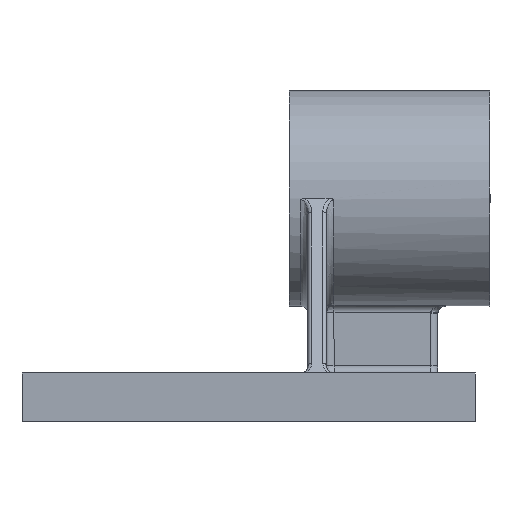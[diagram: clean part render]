
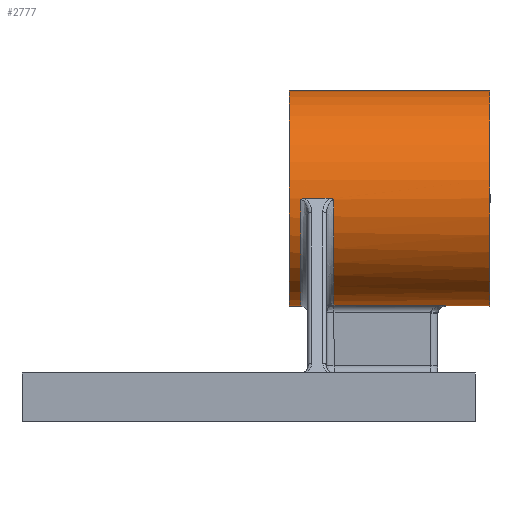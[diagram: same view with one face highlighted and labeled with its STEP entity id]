
A CAD part, left-side view. The second image highlights one B-rep face of the part: STEP entity #2777.
In plain terms, the highlighted cylindrical face has radius 29 mm (diameter 58 mm), a full revolution.
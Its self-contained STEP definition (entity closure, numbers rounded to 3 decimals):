
#173=CARTESIAN_POINT('',(-29.,-15.042,60.));
#174=VERTEX_POINT('',#173);
#175=CARTESIAN_POINT('',(-28.998,-14.,59.676));
#176=VERTEX_POINT('',#175);
#177=CARTESIAN_POINT('',(-28.998,-14.,59.676));
#178=CARTESIAN_POINT('',(-28.998,-14.001,59.677));
#179=CARTESIAN_POINT('',(-28.998,-14.003,59.678));
#180=CARTESIAN_POINT('',(-28.999,-14.109,59.754));
#181=CARTESIAN_POINT('',(-28.999,-14.22,59.816));
#182=CARTESIAN_POINT('',(-29.,-14.465,59.917));
#183=CARTESIAN_POINT('',(-29.,-14.596,59.953));
#184=CARTESIAN_POINT('',(-29.,-14.833,59.992));
#185=CARTESIAN_POINT('',(-29.,-14.938,60.));
#186=CARTESIAN_POINT('',(-29.,-15.042,60.));
#187=B_SPLINE_CURVE_WITH_KNOTS('',3,(#177,#178,#179,#180,#181,#182,#183,#184,#185,#186),.UNSPECIFIED.,.F.,.U.,(4,2,2,2,4),(0.,0.0,0.039,0.08,0.111),.UNSPECIFIED.);
#188=EDGE_CURVE('',#174,#176,#187,.F.);
#482=CARTESIAN_POINT('',(28.998,-14.,59.676));
#483=VERTEX_POINT('',#482);
#484=CARTESIAN_POINT('',(0.,-14.,60.));
#485=DIRECTION('',(0.0,-1.0,0.0));
#486=DIRECTION('',(0.0,0.0,-1.0));
#487=AXIS2_PLACEMENT_3D('',#484,#485,#486);
#488=CIRCLE('',#487,29.);
#489=EDGE_CURVE('',#176,#483,#488,.T.);
#631=CARTESIAN_POINT('',(29.,-21.958,60.));
#632=VERTEX_POINT('',#631);
#633=CARTESIAN_POINT('',(28.998,-23.,59.676));
#634=VERTEX_POINT('',#633);
#635=CARTESIAN_POINT('',(28.998,-23.,59.676));
#636=CARTESIAN_POINT('',(28.998,-22.999,59.677));
#637=CARTESIAN_POINT('',(28.998,-22.997,59.678));
#638=CARTESIAN_POINT('',(28.999,-22.891,59.754));
#639=CARTESIAN_POINT('',(28.999,-22.78,59.816));
#640=CARTESIAN_POINT('',(29.,-22.535,59.917));
#641=CARTESIAN_POINT('',(29.,-22.404,59.953));
#642=CARTESIAN_POINT('',(29.,-22.167,59.992));
#643=CARTESIAN_POINT('',(29.,-22.062,60.));
#644=CARTESIAN_POINT('',(29.,-21.958,60.));
#645=B_SPLINE_CURVE_WITH_KNOTS('',3,(#635,#636,#637,#638,#639,#640,#641,#642,#643,#644),.UNSPECIFIED.,.F.,.U.,(4,2,2,2,4),(0.,0.0,0.039,0.08,0.111),.UNSPECIFIED.);
#646=EDGE_CURVE('',#632,#634,#645,.F.);
#930=CARTESIAN_POINT('',(29.,-15.042,60.));
#931=VERTEX_POINT('',#930);
#932=CARTESIAN_POINT('',(29.,-15.042,60.));
#933=CARTESIAN_POINT('',(29.,-15.,60.));
#934=CARTESIAN_POINT('',(29.,-14.959,59.999));
#935=CARTESIAN_POINT('',(29.,-14.746,59.985));
#936=CARTESIAN_POINT('',(29.,-14.576,59.952));
#937=CARTESIAN_POINT('',(29.,-14.267,59.841));
#938=CARTESIAN_POINT('',(28.999,-14.131,59.77));
#939=CARTESIAN_POINT('',(28.998,-14.003,59.678));
#940=CARTESIAN_POINT('',(28.998,-14.001,59.677));
#941=CARTESIAN_POINT('',(28.998,-14.,59.676));
#942=B_SPLINE_CURVE_WITH_KNOTS('',3,(#932,#933,#934,#935,#936,#937,#938,#939,#940,#941),.UNSPECIFIED.,.F.,.U.,(4,2,2,2,4),(0.0,0.012,0.064,0.111,0.111),.UNSPECIFIED.);
#943=EDGE_CURVE('',#483,#931,#942,.F.);
#1091=CARTESIAN_POINT('',(29.,-21.958,60.));
#1092=DIRECTION('',(0.0,1.0,0.0));
#1093=VECTOR('',#1092,6.916);
#1094=LINE('',#1091,#1093);
#1095=EDGE_CURVE('',#632,#931,#1094,.T.);
#1363=CARTESIAN_POINT('',(-28.998,-23.,59.676));
#1364=VERTEX_POINT('',#1363);
#1365=CARTESIAN_POINT('',(-29.,-21.958,60.));
#1366=VERTEX_POINT('',#1365);
#1367=CARTESIAN_POINT('',(-29.,-21.958,60.));
#1368=CARTESIAN_POINT('',(-29.,-22.,60.));
#1369=CARTESIAN_POINT('',(-29.,-22.041,59.999));
#1370=CARTESIAN_POINT('',(-29.,-22.254,59.985));
#1371=CARTESIAN_POINT('',(-29.,-22.424,59.952));
#1372=CARTESIAN_POINT('',(-29.,-22.733,59.841));
#1373=CARTESIAN_POINT('',(-28.999,-22.869,59.77));
#1374=CARTESIAN_POINT('',(-28.998,-22.997,59.678));
#1375=CARTESIAN_POINT('',(-28.998,-22.999,59.677));
#1376=CARTESIAN_POINT('',(-28.998,-23.,59.676));
#1377=B_SPLINE_CURVE_WITH_KNOTS('',3,(#1367,#1368,#1369,#1370,#1371,#1372,#1373,#1374,#1375,#1376),.UNSPECIFIED.,.F.,.U.,(4,2,2,2,4),(0.0,0.012,0.064,0.111,0.111),.UNSPECIFIED.);
#1378=EDGE_CURVE('',#1364,#1366,#1377,.F.);
#1453=CARTESIAN_POINT('',(-4.21,-23.,31.307));
#1454=VERTEX_POINT('',#1453);
#1462=CARTESIAN_POINT('',(0.,-23.,60.));
#1463=DIRECTION('',(0.,1.0,0.));
#1464=DIRECTION('',(-0.737,0.,-0.676));
#1465=AXIS2_PLACEMENT_3D('',#1462,#1463,#1464);
#1466=CIRCLE('',#1465,29.);
#1467=EDGE_CURVE('',#1454,#1364,#1466,.T.);
#1655=CARTESIAN_POINT('',(4.21,-53.0,31.307));
#1656=VERTEX_POINT('',#1655);
#1878=CARTESIAN_POINT('',(-4.21,-53.0,31.307));
#1879=VERTEX_POINT('',#1878);
#1880=CARTESIAN_POINT('',(0.,-53.0,60.));
#1881=DIRECTION('',(0.0,1.0,0.0));
#1882=DIRECTION('',(0.0,0.0,-1.0));
#1883=AXIS2_PLACEMENT_3D('',#1880,#1881,#1882);
#1884=CIRCLE('',#1883,29.);
#1885=EDGE_CURVE('',#1656,#1879,#1884,.T.);
#1932=CARTESIAN_POINT('',(4.21,-23.,31.307));
#1933=VERTEX_POINT('',#1932);
#1941=CARTESIAN_POINT('',(4.21,-23.,31.307));
#1942=DIRECTION('',(0.0,-1.0,0.0));
#1943=VECTOR('',#1942,30.);
#1944=LINE('',#1941,#1943);
#1945=EDGE_CURVE('',#1933,#1656,#1944,.T.);
#2613=CARTESIAN_POINT('',(-4.21,-53.0,31.307));
#2614=DIRECTION('',(0.0,1.0,0.0));
#2615=VECTOR('',#2614,30.);
#2616=LINE('',#2613,#2615);
#2617=EDGE_CURVE('',#1879,#1454,#2616,.T.);
#2676=CARTESIAN_POINT('',(0.,-23.,60.));
#2677=DIRECTION('',(0.,1.0,0.));
#2678=DIRECTION('',(0.737,0.,-0.676));
#2679=AXIS2_PLACEMENT_3D('',#2676,#2677,#2678);
#2680=CIRCLE('',#2679,29.);
#2681=EDGE_CURVE('',#634,#1933,#2680,.T.);
#2731=CARTESIAN_POINT('',(0.,-65.0,60.));
#2732=DIRECTION('',(0.,1.0,0.0));
#2733=DIRECTION('',(-1.0,0.0,0.0));
#2734=AXIS2_PLACEMENT_3D('',#2731,#2732,#2733);
#2735=CYLINDRICAL_SURFACE('',#2734,29.);
#2736=CARTESIAN_POINT('',(29.,-65.,60.));
#2737=VERTEX_POINT('',#2736);
#2738=CARTESIAN_POINT('',(0.,-65.0,60.));
#2739=DIRECTION('',(0.0,1.0,0.0));
#2740=DIRECTION('',(-1.0,0.0,0.0));
#2741=AXIS2_PLACEMENT_3D('',#2738,#2739,#2740);
#2742=CIRCLE('',#2741,29.);
#2743=EDGE_CURVE('',#2737,#2737,#2742,.T.);
#2744=ORIENTED_EDGE('',*,*,#2743,.T.);
#2745=EDGE_LOOP('',(#2744));
#2746=FACE_OUTER_BOUND('',#2745,.T.);
#2747=CARTESIAN_POINT('',(-29.,-15.042,60.0));
#2748=DIRECTION('',(0.0,-1.0,0.0));
#2749=VECTOR('',#2748,6.916);
#2750=LINE('',#2747,#2749);
#2751=EDGE_CURVE('',#174,#1366,#2750,.T.);
#2752=ORIENTED_EDGE('',*,*,#2751,.T.);
#2753=ORIENTED_EDGE('',*,*,#1378,.F.);
#2754=ORIENTED_EDGE('',*,*,#1467,.F.);
#2755=ORIENTED_EDGE('',*,*,#2617,.F.);
#2756=ORIENTED_EDGE('',*,*,#1885,.F.);
#2757=ORIENTED_EDGE('',*,*,#1945,.F.);
#2758=ORIENTED_EDGE('',*,*,#2681,.F.);
#2759=ORIENTED_EDGE('',*,*,#646,.F.);
#2760=ORIENTED_EDGE('',*,*,#1095,.T.);
#2761=ORIENTED_EDGE('',*,*,#943,.F.);
#2762=ORIENTED_EDGE('',*,*,#489,.F.);
#2763=ORIENTED_EDGE('',*,*,#188,.F.);
#2764=EDGE_LOOP('',(#2752,#2753,#2754,#2755,#2756,#2757,#2758,#2759,#2760,#2761,#2762,#2763));
#2765=FACE_BOUND('',#2764,.T.);
#2766=CARTESIAN_POINT('',(29.,-11.,60.));
#2767=VERTEX_POINT('',#2766);
#2768=CARTESIAN_POINT('',(0.,-11.,60.));
#2769=DIRECTION('',(0.0,-1.0,0.0));
#2770=DIRECTION('',(-1.0,0.0,0.0));
#2771=AXIS2_PLACEMENT_3D('',#2768,#2769,#2770);
#2772=CIRCLE('',#2771,29.);
#2773=EDGE_CURVE('',#2767,#2767,#2772,.T.);
#2774=ORIENTED_EDGE('',*,*,#2773,.T.);
#2775=EDGE_LOOP('',(#2774));
#2776=FACE_BOUND('',#2775,.T.);
#2777=ADVANCED_FACE('',(#2746,#2765,#2776),#2735,.T.);
